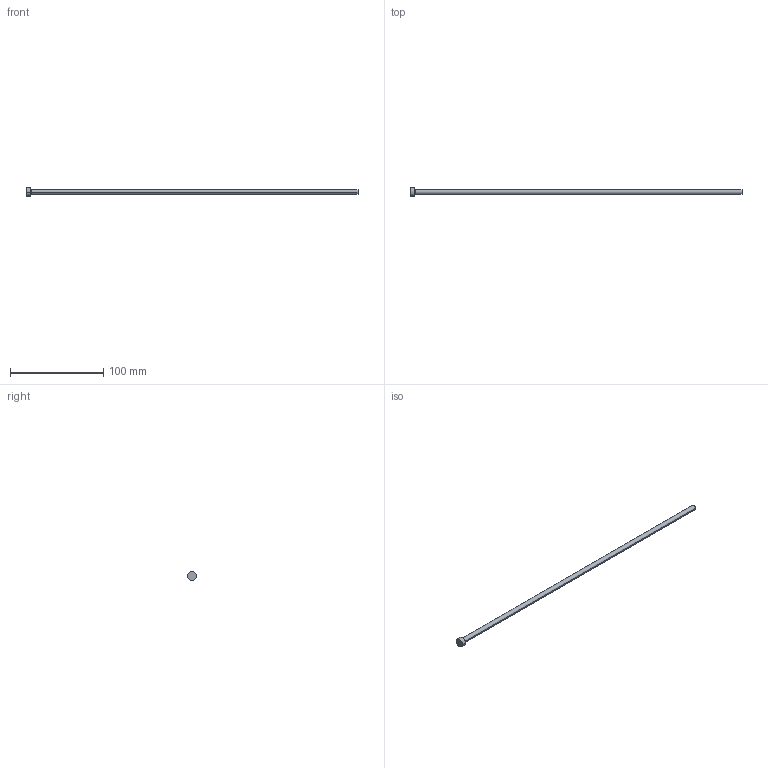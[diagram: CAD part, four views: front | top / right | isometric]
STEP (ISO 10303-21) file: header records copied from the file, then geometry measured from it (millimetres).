
FILE_DESCRIPTION (( 'STEP AP214' ), '1' );
FILE_NAME ('P14-14.STEP', '2020-03-11T18:25:22', ( '' ), ( '' ), 'SwSTEP 2.0', 'SolidWorks 2018', '' );
FILE_SCHEMA (( 'AUTOMOTIVE_DESIGN' ));
Length unit declared in the file: inch
Products named in the file (1): P14-14
Bounding box: 355.6 x 9.53 x 9.53 mm (x, y, z)
Volume: 7654.4 mm3; surface area: 5954.6 mm2
Topology: 1 solids, 1 shells, 13 faces, 24 edges, 14 vertices
Faces by surface type: cone 4, cylinder 4, plane 3, torus 2
Entity records: 366 total; most frequent: DIRECTION 68, CARTESIAN_POINT 52, ORIENTED_EDGE 48, AXIS2_PLACEMENT_3D 30, EDGE_CURVE 24, CIRCLE 16, VERTEX_POINT 14, EDGE_LOOP 14
